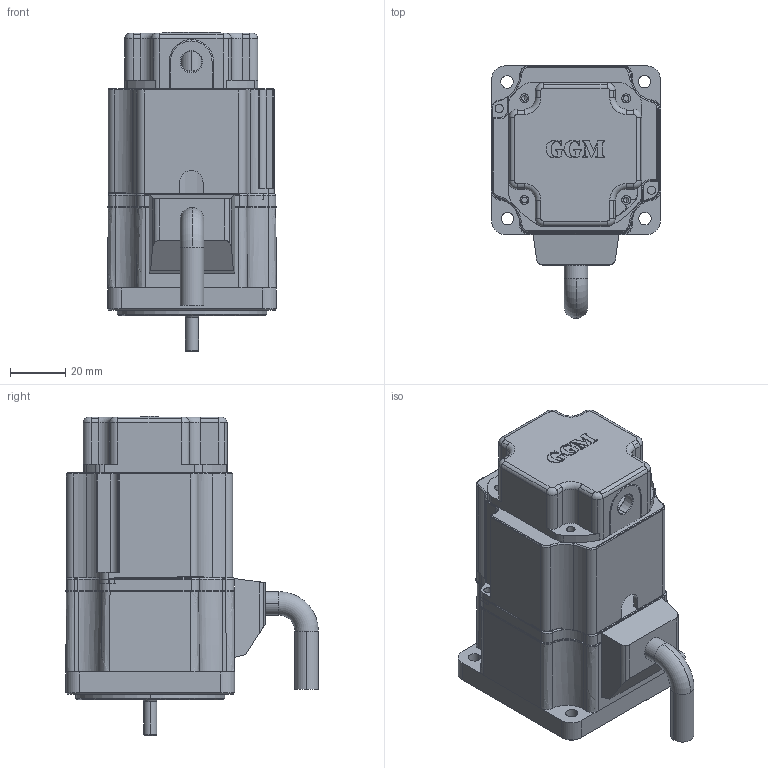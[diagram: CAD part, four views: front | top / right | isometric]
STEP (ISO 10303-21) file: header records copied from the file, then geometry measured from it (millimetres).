
FILE_DESCRIPTION (( 'STEP AP214' ), '1' );
FILE_NAME ('X Series 30w_brake_encoder_H.STEP', '2023-08-16T06:20:58', ( '' ), ( '' ), 'SwSTEP 2.0', 'SolidWorks 2022', '' );
FILE_SCHEMA (( 'AUTOMOTIVE_DESIGN' ));
Length unit declared in the file: millimetre
Products named in the file (7): X Series 30w_brake_encoder_H; ENCODER COVER ASS''Y; X Series 30w_brake_H.stp; ENCODER COVER; LEAD BUSH.stp; K6BH30N﹤.stp; BRAKE COVER 譆謙.stp
Assembly tree (6 placements, depth 3):
  X Series 30w_brake_encoder_H
    X Series 30w_brake_H.stp
      K6BH30N﹤.stp
      BRAKE COVER 譆謙.stp
    ENCODER COVER ASS''Y
      LEAD BUSH.stp
      ENCODER COVER
Bounding box: 61.1 x 91.3 x 115.3 mm (x, y, z)
Volume: 188975.1 mm3; surface area: 63154.7 mm2
Topology: 4 solids, 13 shells, 977 faces, 2539 edges, 1603 vertices
Faces by surface type: cylinder 421, plane 346, bspline 83, torus 80, cone 26, sphere 21
Entity records: 33201 total; most frequent: CARTESIAN_POINT 7378, DIRECTION 5116, ORIENTED_EDGE 5058, EDGE_CURVE 2529, AXIS2_PLACEMENT_3D 1899, VERTEX_POINT 1602, VECTOR 1318, LINE 1318
